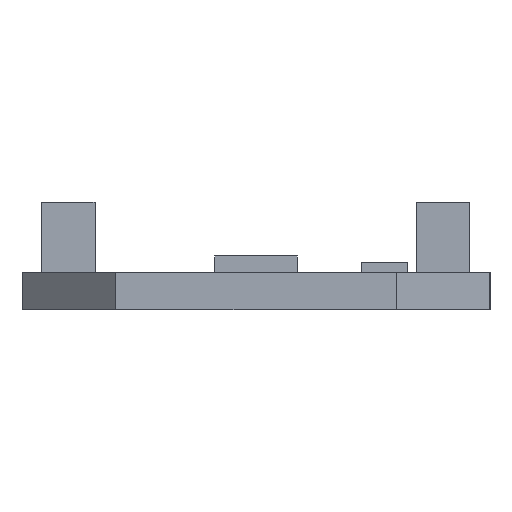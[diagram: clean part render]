
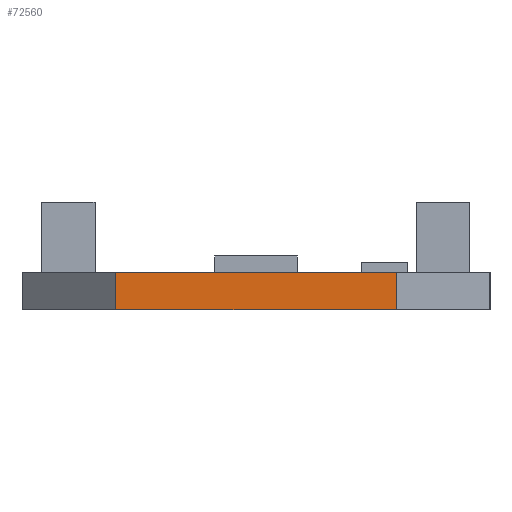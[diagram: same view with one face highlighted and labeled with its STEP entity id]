
A CAD part, left-side view. The second image highlights one B-rep face of the part: STEP entity #72560.
In plain terms, the highlighted planar face has unit normal (-1, 0, 0).
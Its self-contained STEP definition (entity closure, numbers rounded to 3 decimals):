
#72535 = VERTEX_POINT('',#72536);
#72536 = CARTESIAN_POINT('',(-0.007,16.,0.));
#72542 = EDGE_CURVE('',#72543,#72535,#72545,.T.);
#72543 = VERTEX_POINT('',#72544);
#72544 = CARTESIAN_POINT('',(-0.007,16.,-1.6));
#72545 = LINE('',#72546,#72547);
#72546 = CARTESIAN_POINT('',(-0.007,16.,-1.6));
#72547 = VECTOR('',#72548,1.);
#72548 = DIRECTION('',(0.,0.,1.));
#72560 = ADVANCED_FACE('',(#72561),#72586,.F.);
#72561 = FACE_BOUND('',#72562,.F.);
#72562 = EDGE_LOOP('',(#72563,#72564,#72572,#72580));
#72563 = ORIENTED_EDGE('',*,*,#72542,.T.);
#72564 = ORIENTED_EDGE('',*,*,#72565,.T.);
#72565 = EDGE_CURVE('',#72535,#72566,#72568,.T.);
#72566 = VERTEX_POINT('',#72567);
#72567 = CARTESIAN_POINT('',(-0.005,3.995,0.
    ));
#72568 = LINE('',#72569,#72570);
#72569 = CARTESIAN_POINT('',(-0.007,16.,0.));
#72570 = VECTOR('',#72571,1.);
#72571 = DIRECTION('',(0.,-1.,0.));
#72572 = ORIENTED_EDGE('',*,*,#72573,.F.);
#72573 = EDGE_CURVE('',#72574,#72566,#72576,.T.);
#72574 = VERTEX_POINT('',#72575);
#72575 = CARTESIAN_POINT('',(-0.005,3.995,
    -1.6));
#72576 = LINE('',#72577,#72578);
#72577 = CARTESIAN_POINT('',(-0.005,3.995,
    -1.6));
#72578 = VECTOR('',#72579,1.);
#72579 = DIRECTION('',(0.,0.,1.));
#72580 = ORIENTED_EDGE('',*,*,#72581,.F.);
#72581 = EDGE_CURVE('',#72543,#72574,#72582,.T.);
#72582 = LINE('',#72583,#72584);
#72583 = CARTESIAN_POINT('',(-0.007,16.,-1.6));
#72584 = VECTOR('',#72585,1.);
#72585 = DIRECTION('',(0.,-1.,0.));
#72586 = PLANE('',#72587);
#72587 = AXIS2_PLACEMENT_3D('',#72588,#72589,#72590);
#72588 = CARTESIAN_POINT('',(-0.007,16.,-1.6));
#72589 = DIRECTION('',(1.,0.,0.));
#72590 = DIRECTION('',(0.,-1.,0.));
